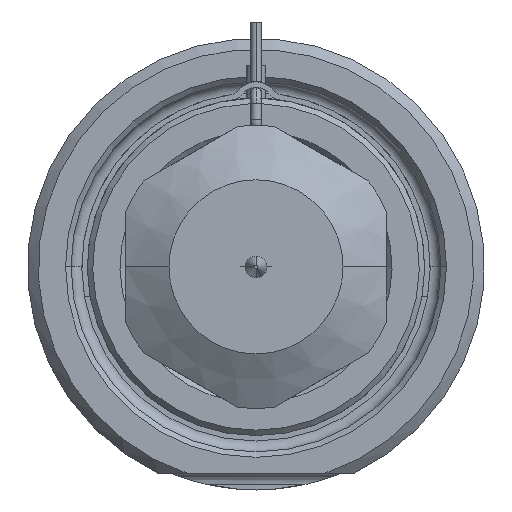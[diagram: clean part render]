
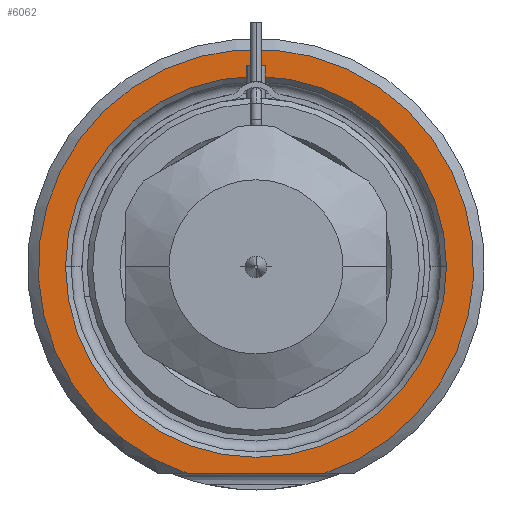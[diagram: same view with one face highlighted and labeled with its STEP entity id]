
A CAD part, front view. The second image highlights one B-rep face of the part: STEP entity #6062.
In plain terms, the highlighted planar face has unit normal (0, -1, 0).
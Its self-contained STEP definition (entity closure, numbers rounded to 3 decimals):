
#2304=DIRECTION('',(1.,0.,0.));
#2305=VECTOR('',#2304,12.49);
#2306=CARTESIAN_POINT('',(-6.245,0.,-19.));
#2307=LINE('',#2306,#2305);
#2308=CARTESIAN_POINT('',(0.,0.,0.));
#2309=DIRECTION('',(0.,1.,0.));
#2310=DIRECTION('',(-1.,0.,0.));
#2311=AXIS2_PLACEMENT_3D('',#2308,#2309,#2310);
#2313=CARTESIAN_POINT('',(0.,0.,0.));
#2314=DIRECTION('',(0.,1.,0.));
#2315=DIRECTION('',(1.,0.,0.));
#2316=AXIS2_PLACEMENT_3D('',#2313,#2314,#2315);
#2422=CARTESIAN_POINT('',(0.,0.,0.));
#2423=DIRECTION('',(0.,-1.,0.));
#2424=DIRECTION('',(0.312,0.,-0.95));
#2425=AXIS2_PLACEMENT_3D('',#2422,#2423,#2424);
#3379=CARTESIAN_POINT('',(-17.5,0.,0.));
#3380=CARTESIAN_POINT('',(17.5,0.,0.));
#3381=VERTEX_POINT('',#3379);
#3382=VERTEX_POINT('',#3380);
#3437=CARTESIAN_POINT('',(-6.245,0.,-19.));
#3438=CARTESIAN_POINT('',(6.245,0.,-19.));
#3439=VERTEX_POINT('',#3437);
#3440=VERTEX_POINT('',#3438);
#6046=CARTESIAN_POINT('',(0.,0.,0.));
#6047=DIRECTION('',(0.,-1.,0.));
#6048=DIRECTION('',(1.,0.,0.));
#6049=AXIS2_PLACEMENT_3D('',#6046,#6047,#6048);
#6050=PLANE('',#6049);
#6052=ORIENTED_EDGE('',*,*,#6051,.F.);
#6054=ORIENTED_EDGE('',*,*,#6053,.F.);
#6055=EDGE_LOOP('',(#6052,#6054));
#6056=FACE_OUTER_BOUND('',#6055,.F.);
#6057=ORIENTED_EDGE('',*,*,#6036,.F.);
#6059=ORIENTED_EDGE('',*,*,#6058,.F.);
#6060=EDGE_LOOP('',(#6057,#6059));
#6061=FACE_BOUND('',#6060,.F.);
#6062=ADVANCED_FACE('',(#6056,#6061),#6050,.T.);
#2312=CIRCLE('',#2311,17.5);
#2317=CIRCLE('',#2316,17.5);
#2426=CIRCLE('',#2425,20.);
#6036=EDGE_CURVE('',#3381,#3382,#2312,.T.);
#6051=EDGE_CURVE('',#3439,#3440,#2307,.T.);
#6053=EDGE_CURVE('',#3440,#3439,#2426,.T.);
#6058=EDGE_CURVE('',#3382,#3381,#2317,.T.);
